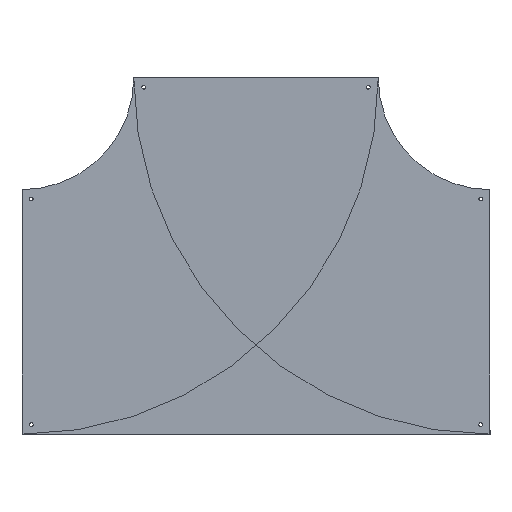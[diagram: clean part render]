
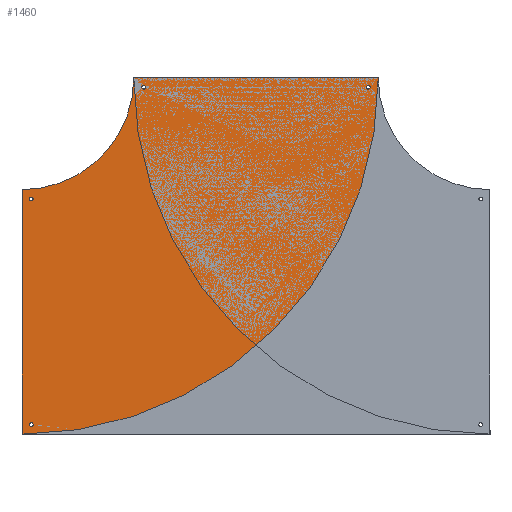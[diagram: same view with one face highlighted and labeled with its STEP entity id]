
A CAD part, top view. The second image highlights one B-rep face of the part: STEP entity #1460.
In plain terms, the highlighted planar face has unit normal (0, 0, 1).
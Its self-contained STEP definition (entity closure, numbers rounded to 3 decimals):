
#89=FACE_BOUND('',#365,.T.);
#90=FACE_BOUND('',#366,.T.);
#91=FACE_BOUND('',#367,.T.);
#92=FACE_BOUND('',#368,.T.);
#149=CIRCLE('',#1604,951.5);
#150=CIRCLE('',#1605,298.5);
#151=CIRCLE('',#1606,5.);
#152=CIRCLE('',#1607,5.);
#153=CIRCLE('',#1608,5.);
#154=CIRCLE('',#1609,5.);
#155=CIRCLE('',#1610,5.);
#156=CIRCLE('',#1611,5.);
#157=CIRCLE('',#1612,5.);
#158=CIRCLE('',#1613,5.);
#268=FACE_OUTER_BOUND('',#364,.T.);
#364=EDGE_LOOP('',(#1224,#1225,#1226,#1227));
#365=EDGE_LOOP('',(#1228,#1229));
#366=EDGE_LOOP('',(#1230,#1231));
#367=EDGE_LOOP('',(#1232,#1233));
#368=EDGE_LOOP('',(#1234,#1235));
#488=LINE('',#2427,#602);
#492=LINE('',#2436,#606);
#602=VECTOR('',#1972,304.8);
#606=VECTOR('',#1978,304.8);
#718=VERTEX_POINT('',#2425);
#719=VERTEX_POINT('',#2426);
#722=VERTEX_POINT('',#2434);
#723=VERTEX_POINT('',#2435);
#726=VERTEX_POINT('',#2445);
#727=VERTEX_POINT('',#2446);
#728=VERTEX_POINT('',#2449);
#729=VERTEX_POINT('',#2450);
#730=VERTEX_POINT('',#2453);
#731=VERTEX_POINT('',#2454);
#732=VERTEX_POINT('',#2457);
#733=VERTEX_POINT('',#2458);
#892=EDGE_CURVE('',#718,#719,#488,.T.);
#896=EDGE_CURVE('',#722,#723,#492,.T.);
#900=EDGE_CURVE('',#718,#723,#149,.T.);
#901=EDGE_CURVE('',#722,#719,#150,.T.);
#902=EDGE_CURVE('',#726,#727,#151,.T.);
#903=EDGE_CURVE('',#727,#726,#152,.T.);
#904=EDGE_CURVE('',#728,#729,#153,.T.);
#905=EDGE_CURVE('',#729,#728,#154,.T.);
#906=EDGE_CURVE('',#730,#731,#155,.T.);
#907=EDGE_CURVE('',#731,#730,#156,.T.);
#908=EDGE_CURVE('',#732,#733,#157,.T.);
#909=EDGE_CURVE('',#733,#732,#158,.T.);
#1224=ORIENTED_EDGE('',*,*,#892,.F.);
#1225=ORIENTED_EDGE('',*,*,#900,.T.);
#1226=ORIENTED_EDGE('',*,*,#896,.F.);
#1227=ORIENTED_EDGE('',*,*,#901,.T.);
#1228=ORIENTED_EDGE('',*,*,#902,.T.);
#1229=ORIENTED_EDGE('',*,*,#903,.T.);
#1230=ORIENTED_EDGE('',*,*,#904,.T.);
#1231=ORIENTED_EDGE('',*,*,#905,.T.);
#1232=ORIENTED_EDGE('',*,*,#906,.T.);
#1233=ORIENTED_EDGE('',*,*,#907,.T.);
#1234=ORIENTED_EDGE('',*,*,#908,.T.);
#1235=ORIENTED_EDGE('',*,*,#909,.T.);
#1396=PLANE('',#1603);
#1460=ADVANCED_FACE('',(#268,#89,#90,#91,#92),#1396,.T.);
#1603=AXIS2_PLACEMENT_3D('',#2442,#1982,#1983);
#1604=AXIS2_PLACEMENT_3D('',#2443,#1984,#1985);
#1605=AXIS2_PLACEMENT_3D('',#2444,#1986,#1987);
#1606=AXIS2_PLACEMENT_3D('',#2447,#1988,#1989);
#1607=AXIS2_PLACEMENT_3D('',#2448,#1990,#1991);
#1608=AXIS2_PLACEMENT_3D('',#2451,#1992,#1993);
#1609=AXIS2_PLACEMENT_3D('',#2452,#1994,#1995);
#1610=AXIS2_PLACEMENT_3D('',#2455,#1996,#1997);
#1611=AXIS2_PLACEMENT_3D('',#2456,#1998,#1999);
#1612=AXIS2_PLACEMENT_3D('',#2459,#2000,#2001);
#1613=AXIS2_PLACEMENT_3D('',#2460,#2002,#2003);
#1972=DIRECTION('',(0.,1.,0.));
#1978=DIRECTION('',(1.,0.,0.));
#1982=DIRECTION('center_axis',(0.,0.,1.));
#1983=DIRECTION('ref_axis',(0.,-1.,0.));
#1984=DIRECTION('center_axis',(0.,0.,1.));
#1985=DIRECTION('ref_axis',(0.,-1.,0.));
#1986=DIRECTION('center_axis',(0.,0.,-1.));
#1987=DIRECTION('ref_axis',(0.,-1.,0.));
#1988=DIRECTION('center_axis',(0.,0.,-1.));
#1989=DIRECTION('ref_axis',(1.,0.,0.));
#1990=DIRECTION('center_axis',(0.,0.,-1.));
#1991=DIRECTION('ref_axis',(1.,0.,0.));
#1992=DIRECTION('center_axis',(0.,0.,-1.));
#1993=DIRECTION('ref_axis',(1.,0.,0.));
#1994=DIRECTION('center_axis',(0.,0.,-1.));
#1995=DIRECTION('ref_axis',(1.,0.,0.));
#1996=DIRECTION('center_axis',(0.,0.,-1.));
#1997=DIRECTION('ref_axis',(1.,0.,0.));
#1998=DIRECTION('center_axis',(0.,0.,-1.));
#1999=DIRECTION('ref_axis',(1.,0.,0.));
#2000=DIRECTION('center_axis',(0.,0.,-1.));
#2001=DIRECTION('ref_axis',(1.,0.,0.));
#2002=DIRECTION('center_axis',(0.,0.,-1.));
#2003=DIRECTION('ref_axis',(1.,0.,0.));
#2425=CARTESIAN_POINT('',(-625.,-326.5,1.5));
#2426=CARTESIAN_POINT('',(-625.,326.5,1.5));
#2427=CARTESIAN_POINT('',(-625.,-326.5,1.5));
#2434=CARTESIAN_POINT('',(-326.5,625.,1.5));
#2435=CARTESIAN_POINT('',(326.5,625.,1.5));
#2436=CARTESIAN_POINT('',(-326.5,625.,1.5));
#2442=CARTESIAN_POINT('Origin',(-625.,625.,1.5));
#2443=CARTESIAN_POINT('Origin',(-625.,625.,1.5));
#2444=CARTESIAN_POINT('Origin',(-625.,625.,1.5));
#2445=CARTESIAN_POINT('',(-595.,-301.5,1.5));
#2446=CARTESIAN_POINT('',(-605.,-301.5,1.5));
#2447=CARTESIAN_POINT('Origin',(-600.,-301.5,1.5));
#2448=CARTESIAN_POINT('Origin',(-600.,-301.5,1.5));
#2449=CARTESIAN_POINT('',(-595.,301.5,1.5));
#2450=CARTESIAN_POINT('',(-605.,301.5,1.5));
#2451=CARTESIAN_POINT('Origin',(-600.,301.5,1.5));
#2452=CARTESIAN_POINT('Origin',(-600.,301.5,1.5));
#2453=CARTESIAN_POINT('',(-295.,600.,1.5));
#2454=CARTESIAN_POINT('',(-305.,600.,1.5));
#2455=CARTESIAN_POINT('Origin',(-300.,600.,1.5));
#2456=CARTESIAN_POINT('Origin',(-300.,600.,1.5));
#2457=CARTESIAN_POINT('',(305.,600.,1.5));
#2458=CARTESIAN_POINT('',(295.,600.,1.5));
#2459=CARTESIAN_POINT('Origin',(300.,600.,1.5));
#2460=CARTESIAN_POINT('Origin',(300.,600.,1.5));
